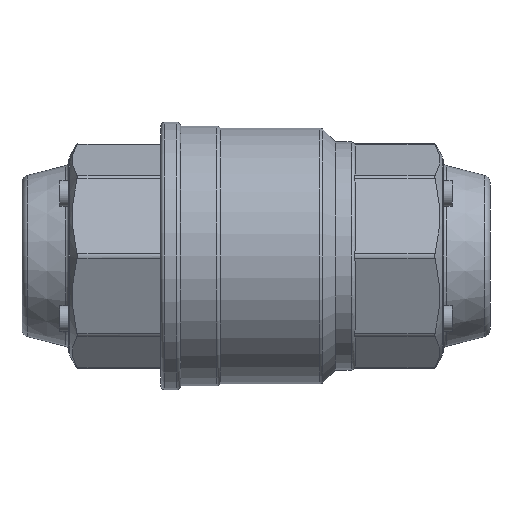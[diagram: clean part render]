
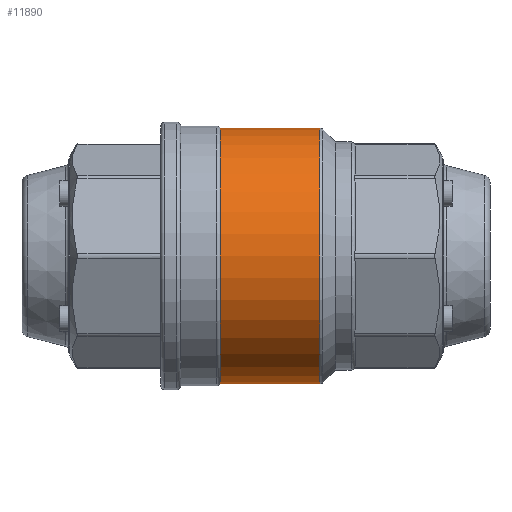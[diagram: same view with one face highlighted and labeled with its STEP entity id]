
A CAD part, front view. The second image highlights one B-rep face of the part: STEP entity #11890.
In plain terms, the highlighted cylindrical face has radius 64.5 mm (diameter 129 mm), a partial arc.
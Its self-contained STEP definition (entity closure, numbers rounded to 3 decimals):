
#288 = CARTESIAN_POINT ( 'NONE',  ( -18., 0., 0. ) ) ;
#290 = DIRECTION ( 'NONE',  ( 1., 0., 0. ) ) ;
#293 = CYLINDRICAL_SURFACE ( 'NONE', #2458, 64.5 ) ;
#294 = FACE_OUTER_BOUND ( 'NONE', #10818, .T. ) ;
#296 = DIRECTION ( 'NONE',  ( 0., 0., -1. ) ) ;
#1645 = LINE ( 'NONE', #1659, #7842 ) ;
#1659 = CARTESIAN_POINT ( 'NONE',  ( -18., 0., 64.5 ) ) ;
#1660 = DIRECTION ( 'NONE',  ( 1., 0., 0. ) ) ;
#1696 = LINE ( 'NONE', #1697, #7833 ) ;
#1697 = CARTESIAN_POINT ( 'NONE',  ( -18., 0., -64.5 ) ) ;
#1706 = DIRECTION ( 'NONE',  ( 1., 0., 0. ) ) ;
#2458 = AXIS2_PLACEMENT_3D ( 'NONE', #288, #290, #296 ) ;
#4141 = CARTESIAN_POINT ( 'NONE',  ( 32.172, 0., -64.5 ) ) ;
#4181 = CARTESIAN_POINT ( 'NONE',  ( 32.172, 0., 64.5 ) ) ;
#4407 = CARTESIAN_POINT ( 'NONE',  ( -18., 0., 64.5 ) ) ;
#4763 = CARTESIAN_POINT ( 'NONE',  ( -18., 0., -64.5 ) ) ;
#7833 = VECTOR ( 'NONE', #1706, 1000. ) ;
#7842 = VECTOR ( 'NONE', #1660, 1000. ) ;
#8093 = AXIS2_PLACEMENT_3D ( 'NONE', #8887, #8888, #8889 ) ;
#8095 = CIRCLE ( 'NONE', #8093, 64.5 ) ;
#8124 = AXIS2_PLACEMENT_3D ( 'NONE', #8792, #8793, #8794 ) ;
#8131 = CIRCLE ( 'NONE', #8124, 64.5 ) ;
#8792 = CARTESIAN_POINT ( 'NONE',  ( -18., 0., 0. ) ) ;
#8793 = DIRECTION ( 'NONE',  ( 1., 0., 0. ) ) ;
#8794 = DIRECTION ( 'NONE',  ( 0., 0., 1. ) ) ;
#8887 = CARTESIAN_POINT ( 'NONE',  ( 32.172, 0., 0. ) ) ;
#8888 = DIRECTION ( 'NONE',  ( -1., 0., 0. ) ) ;
#8889 = DIRECTION ( 'NONE',  ( 0., 0., -1. ) ) ;
#8962 = EDGE_CURVE ( 'NONE', #11319, #11528, #8131, .T. ) ;
#8990 = EDGE_CURVE ( 'NONE', #11161, #11186, #8095, .T. ) ;
#9180 = EDGE_CURVE ( 'NONE', #11319, #11186, #1645, .T. ) ;
#9187 = EDGE_CURVE ( 'NONE', #11528, #11161, #1696, .T. ) ;
#10332 = ORIENTED_EDGE ( 'NONE', *, *, #8962, .T. ) ;
#10447 = ORIENTED_EDGE ( 'NONE', *, *, #9187, .T. ) ;
#10629 = ORIENTED_EDGE ( 'NONE', *, *, #8990, .T. ) ;
#10643 = ORIENTED_EDGE ( 'NONE', *, *, #9180, .F. ) ;
#10818 = EDGE_LOOP ( 'NONE', ( #10643, #10332, #10447, #10629 ) ) ;
#11161 = VERTEX_POINT ( 'NONE', #4141 ) ;
#11186 = VERTEX_POINT ( 'NONE', #4181 ) ;
#11319 = VERTEX_POINT ( 'NONE', #4407 ) ;
#11528 = VERTEX_POINT ( 'NONE', #4763 ) ;
#11890 = ADVANCED_FACE ( 'NONE', ( #294 ), #293, .T. ) ;
